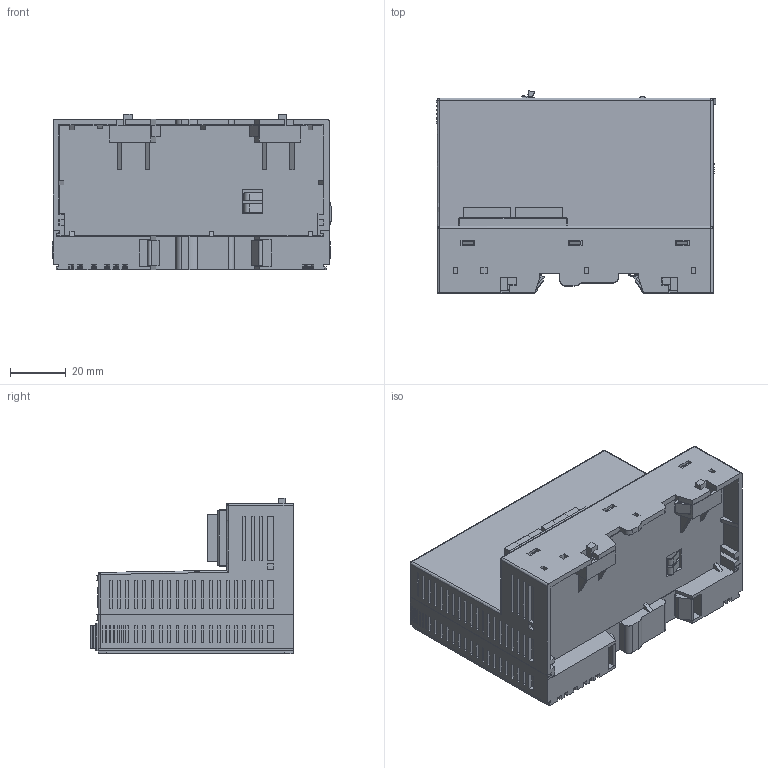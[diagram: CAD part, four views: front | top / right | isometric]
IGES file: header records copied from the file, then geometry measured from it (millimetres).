
Start section: SolidWorks IGES file using analytic representation for surfaces
Global section: file name: Z:\Products\Remote IO\NETWORK\NETWORK_CAD FILES\3D\NETWORK.IGS; native system: SolidWorks 2017; preprocessor: SolidWorks 2017; author: laorb; date: 181203.144001; units: millimetre
Bounding box: 100.4 x 72.6 x 55.8 mm (x, y, z)
Surface area: 57546.8 mm2 (no closed solid volume)
Topology: 0 solids, 0 shells, 2449 faces, 15559 edges, 15534 vertices
Faces by surface type: bspline 2282, revolution 167
